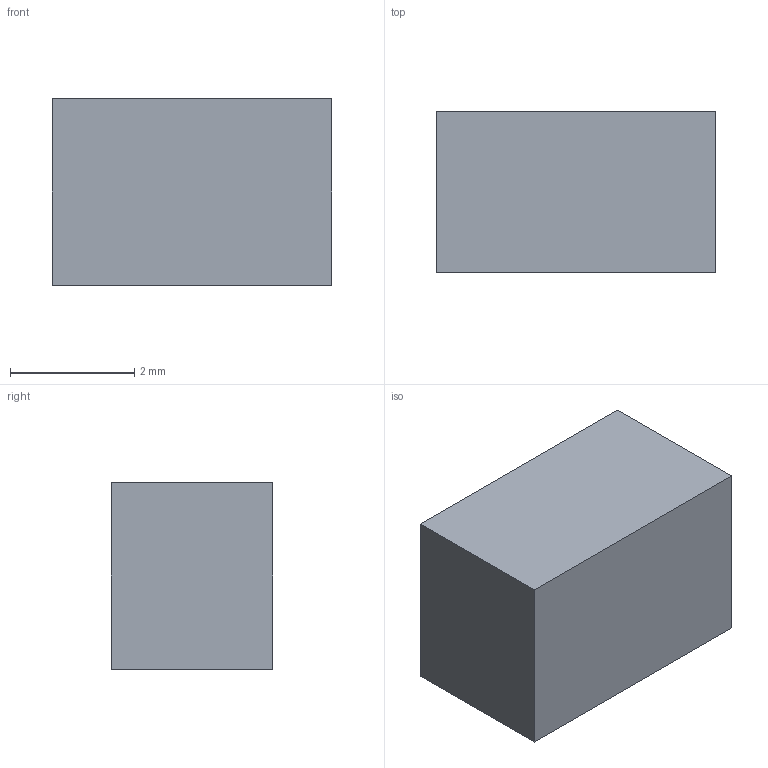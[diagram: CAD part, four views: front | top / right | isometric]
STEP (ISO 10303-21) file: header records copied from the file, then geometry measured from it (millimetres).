
FILE_DESCRIPTION(('Open CASCADE Model'),'2;1');
FILE_NAME('Open CASCADE Shape Model','2026-11-23T18:10:00',('Author'),( 'Open CASCADE'),'Open CASCADE STEP processor 8.0','build123d', 'Unknown');
FILE_SCHEMA(('AUTOMOTIVE_DESIGN { 1 0 10303 214 1 1 1 1 }'));
Length unit declared in the file: millimetre
Products named in the file (2): =>[0:1:1:2]; SOLID
Assembly tree (1 placements, depth 2):
  =>[0:1:1:2]
    SOLID
Bounding box: 4.5 x 2.6 x 3 mm (x, y, z)
Volume: 35.1 mm3; surface area: 66 mm2
Topology: 1 solids, 1 shells, 6 faces, 12 edges, 8 vertices
Faces by surface type: plane 6
Entity records: 340 total; most frequent: CARTESIAN_POINT 52, DIRECTION 52, LINE 36, VECTOR 36, ORIENTED_EDGE 24, PCURVE 24, DEFINITIONAL_REPRESENTATION 24, EDGE_CURVE 12
